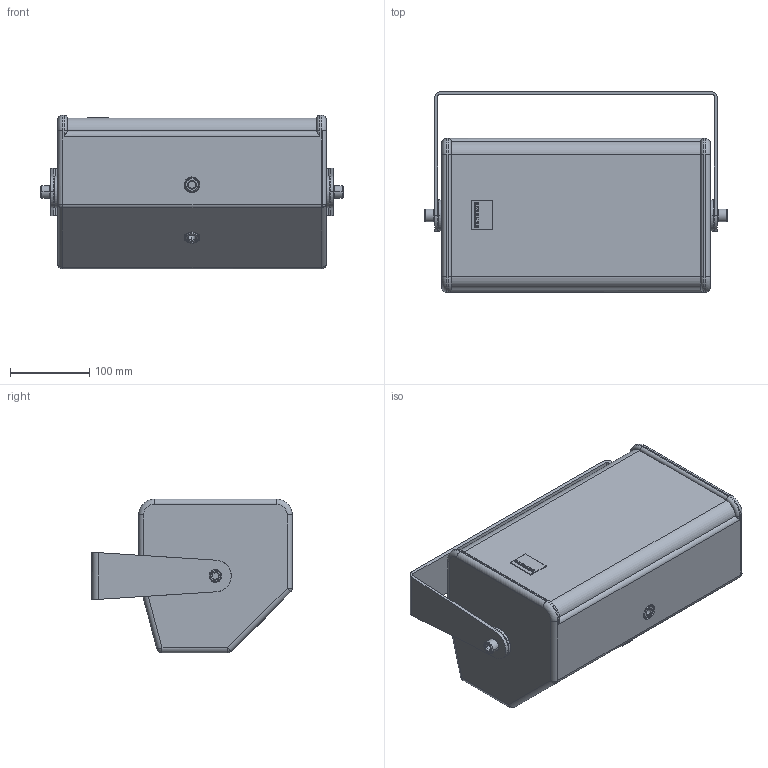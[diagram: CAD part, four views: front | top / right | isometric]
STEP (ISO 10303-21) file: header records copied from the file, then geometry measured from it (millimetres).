
FILE_DESCRIPTION (( 'STEP AP203' ), '1' );
FILE_NAME ('Seeburg_TSNano_Bracket_hor.STEP', '2012-10-17T12:20:01', ( 'Fabian' ), ( '' ), 'SwSTEP 2.0', 'SolidWorks 2009', '' );
FILE_SCHEMA (( 'CONFIG_CONTROL_DESIGN' ));
Length unit declared in the file: millimetre
Products named in the file (17): Imported143; Seeburg_TSNano_Bracket_hor; Imported154; Imported155; Imported156; Imported149; Imported145; Imported146; Imported147; Imported148; Imported144; Imported142; TSNano_Bracket-hor; Imported150; Imported151; Imported152; Imported153
Assembly tree (16 placements, depth 3):
  Seeburg_TSNano_Bracket_hor
    TSNano_Bracket-hor
      Imported147
      Imported152
      Imported153
      Imported143
      Imported142
      Imported156
      Imported148
      Imported149
      Imported154
      Imported145
      Imported150
      Imported151
      Imported144
      Imported146
      Imported155
Bounding box: 381.6 x 253 x 194 mm (x, y, z)
Volume: 4525726.1 mm3; surface area: 749414.6 mm2
Topology: 23 solids, 23 shells, 488 faces, 1177 edges, 750 vertices
Faces by surface type: cylinder 215, plane 167, cone 61, torus 32, sphere 13
Entity records: 18762 total; most frequent: CARTESIAN_POINT 5469, DIRECTION 2513, ORIENTED_EDGE 2328, EDGE_CURVE 1164, AXIS2_PLACEMENT_3D 967, VERTEX_POINT 744, LINE 579, VECTOR 579
